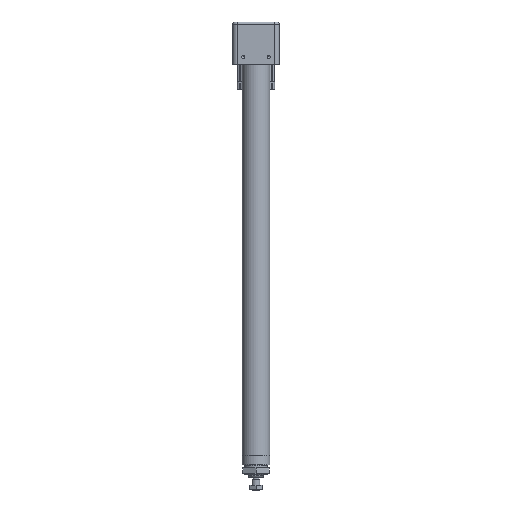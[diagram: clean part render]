
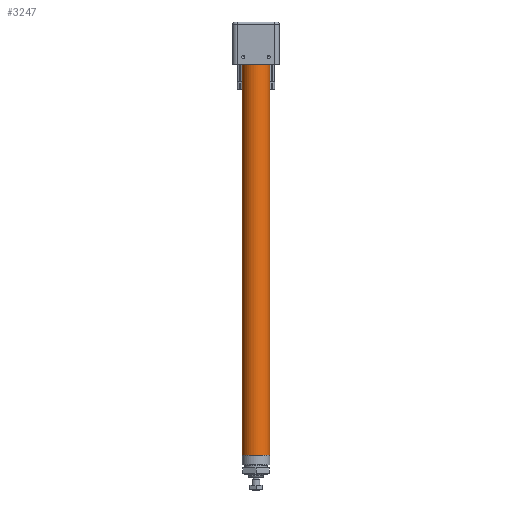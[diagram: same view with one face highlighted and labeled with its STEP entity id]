
A CAD part, front view. The second image highlights one B-rep face of the part: STEP entity #3247.
In plain terms, the highlighted cylindrical face has radius 20.837 mm (diameter 41.675 mm), a full revolution.
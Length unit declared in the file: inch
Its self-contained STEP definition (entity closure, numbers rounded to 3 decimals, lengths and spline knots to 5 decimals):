
#379 = CARTESIAN_POINT ( 'NONE',  ( 0.82037, 0., -23.15429 ) ) ;
#1337 = AXIS2_PLACEMENT_3D ( 'NONE', #7149, #14493, #19883 ) ;
#1392 = CARTESIAN_POINT ( 'NONE',  ( 0., 0., 0. ) ) ;
#3051 = DIRECTION ( 'NONE',  ( 0., 0., 1. ) ) ;
#3247 = ADVANCED_FACE ( 'NONE', ( #16308, #23594 ), #12937, .T. ) ;
#5112 = DIRECTION ( 'NONE',  ( 1., 0., 0. ) ) ;
#5772 = VERTEX_POINT ( 'NONE', #379 ) ;
#5873 = EDGE_CURVE ( 'NONE', #5772, #5772, #20385, .T. ) ;
#6433 = ORIENTED_EDGE ( 'NONE', *, *, #5873, .T. ) ;
#7109 = VERTEX_POINT ( 'NONE', #19840 ) ;
#7149 = CARTESIAN_POINT ( 'NONE',  ( 0., 0., 0. ) ) ;
#8479 = AXIS2_PLACEMENT_3D ( 'NONE', #11134, #8977, #23715 ) ;
#8501 = AXIS2_PLACEMENT_3D ( 'NONE', #1392, #3051, #5112 ) ;
#8977 = DIRECTION ( 'NONE',  ( 0., 0., 1. ) ) ;
#11134 = CARTESIAN_POINT ( 'NONE',  ( 0., 0., -23.15429 ) ) ;
#11573 = CIRCLE ( 'NONE', #8501, 0.82037 ) ;
#12937 = CYLINDRICAL_SURFACE ( 'NONE', #1337, 0.82037 ) ;
#14493 = DIRECTION ( 'NONE',  ( 0., 0., -1. ) ) ;
#16020 = ORIENTED_EDGE ( 'NONE', *, *, #18624, .F. ) ;
#16308 = FACE_OUTER_BOUND ( 'NONE', #21303, .T. ) ;
#18624 = EDGE_CURVE ( 'NONE', #7109, #7109, #11573, .T. ) ;
#19840 = CARTESIAN_POINT ( 'NONE',  ( 0.82037, 0., 0. ) ) ;
#19883 = DIRECTION ( 'NONE',  ( -1., 0., 0. ) ) ;
#20385 = CIRCLE ( 'NONE', #8479, 0.82037 ) ;
#21193 = EDGE_LOOP ( 'NONE', ( #16020 ) ) ;
#21303 = EDGE_LOOP ( 'NONE', ( #6433 ) ) ;
#23594 = FACE_OUTER_BOUND ( 'NONE', #21193, .T. ) ;
#23715 = DIRECTION ( 'NONE',  ( 1., 0., 0. ) ) ;
